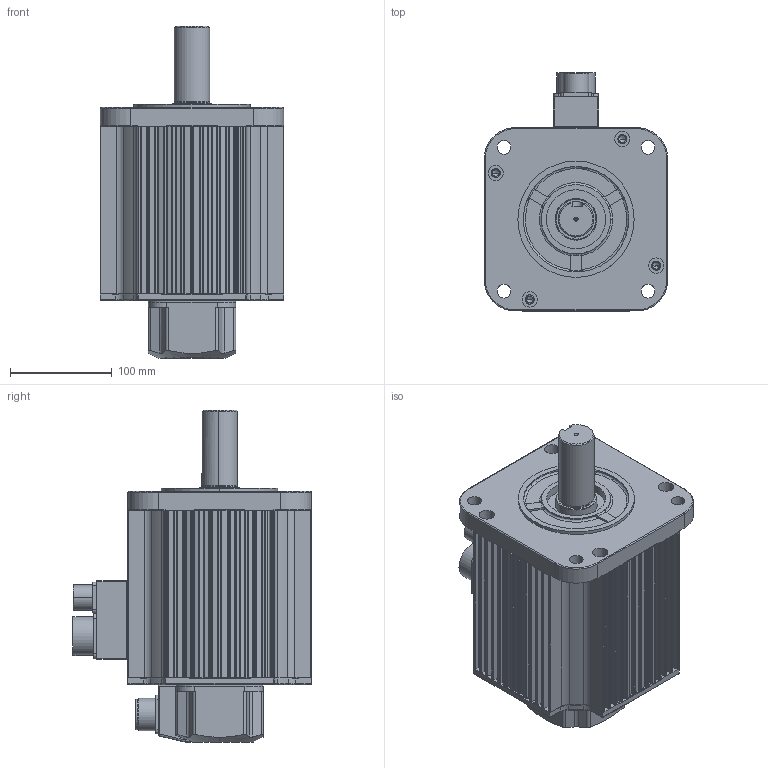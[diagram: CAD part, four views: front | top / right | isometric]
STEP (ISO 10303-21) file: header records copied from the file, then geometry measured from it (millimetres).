
FILE_DESCRIPTION (( 'STEP AP203' ), '1' );
FILE_NAME ('KAND-30D¡à3B2.STEP', '2025-07-14T08:35:58', ( '' ), ( '' ), 'SwSTEP 2.0', 'SolidWorks 2023', '' );
FILE_SCHEMA (( 'CONFIG_CONTROL_DESIGN' ));
Length unit declared in the file: millimetre
Products named in the file (12): MS3102A 24-10P_표준; Ø35-KEY10X60; □180 FLANGE; □180 BRACKET_BR; MS3102A 14-2P; MS3102A 20-29P; 10010168 CONNECTOR BOX_MS24, MS14; KAND-30D□3B2; 1005052200 ENCODER COVER; 10050523 GASKET_돌출형; 10010165 RUBBER SEAL_MS24, MS14; □180-164.5mm
Assembly tree (11 placements, depth 2):
  KAND-30D□3B2
    □180-164.5mm
    □180 FLANGE
    □180 BRACKET_BR
    Ø35-KEY10X60
    10050523 GASKET_돌출형
    1005052200 ENCODER COVER
    10010165 RUBBER SEAL_MS24, MS14
    10010168 CONNECTOR BOX_MS24, MS14
    MS3102A 20-29P
    MS3102A 14-2P
    MS3102A 24-10P_표준
Bounding box: 180 x 234.12 x 326.2 mm (x, y, z)
Volume: 1673236.2 mm3; surface area: 580314.3 mm2
Topology: 11 solids, 11 shells, 1718 faces, 4708 edges, 3064 vertices
Faces by surface type: cylinder 912, plane 573, torus 120, cone 78, bspline 35
Entity records: 59123 total; most frequent: CARTESIAN_POINT 13126, DIRECTION 9798, ORIENTED_EDGE 9336, EDGE_CURVE 4668, AXIS2_PLACEMENT_3D 3804, VERTEX_POINT 3064, VECTOR 2190, LINE 2190
